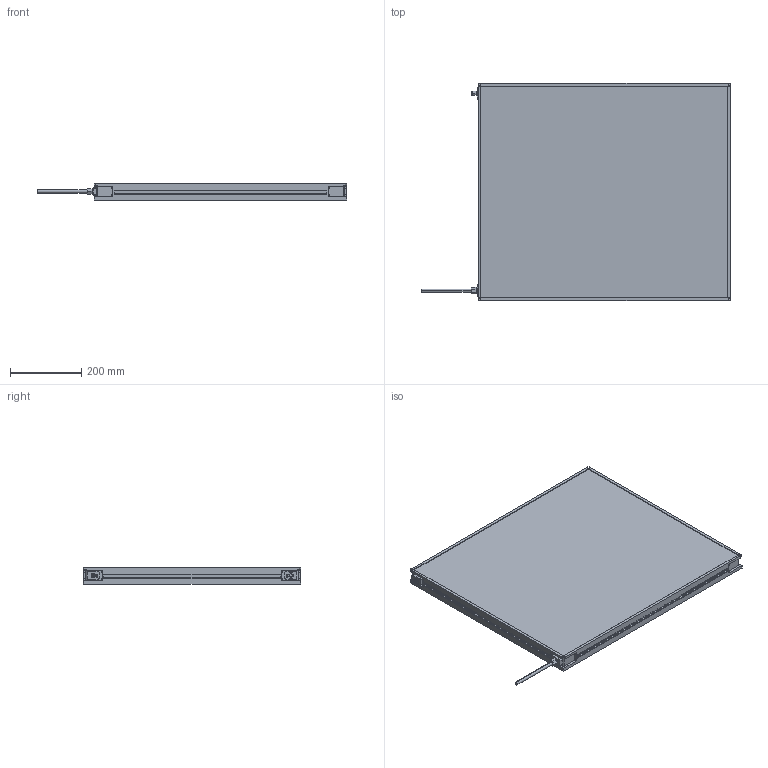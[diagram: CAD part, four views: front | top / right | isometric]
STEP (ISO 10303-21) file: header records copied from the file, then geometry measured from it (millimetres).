
FILE_DESCRIPTION (( 'STEP AP214' ), '1' );
FILE_NAME ('MBACK-xxxx-xxx-M1A2_CLIENT600x700.STEP', '2022-04-01T11:47:12', ( '' ), ( '' ), 'SwSTEP 2.0', 'SolidWorks 2020', '' );
FILE_SCHEMA (( 'AUTOMOTIVE_DESIGN' ));
Length unit declared in the file: millimetre
Products named in the file (1): MBACK-xxxx-xxx-M1A2_CLIENT600x700
Bounding box: 867.4 x 608 x 45.5 mm (x, y, z)
Volume: 17913860.9 mm3; surface area: 1041614.9 mm2
Topology: 1 solids, 1 shells, 470 faces, 1210 edges, 804 vertices
Faces by surface type: plane 265, cylinder 117, bspline 80, cone 8
Entity records: 18046 total; most frequent: CARTESIAN_POINT 6837, ORIENTED_EDGE 2420, DIRECTION 2082, EDGE_CURVE 1210, VERTEX_POINT 804, LINE 800, VECTOR 800, AXIS2_PLACEMENT_3D 641
